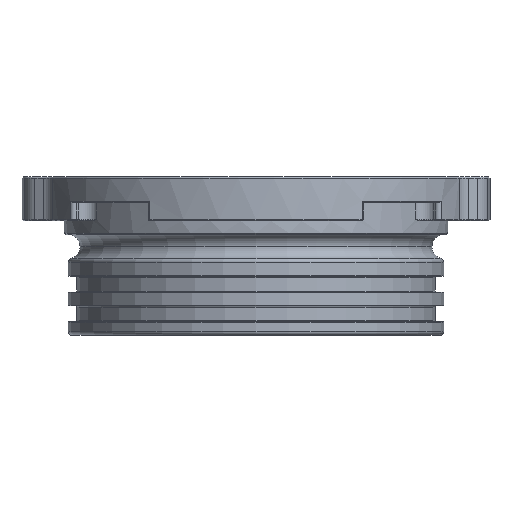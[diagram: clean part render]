
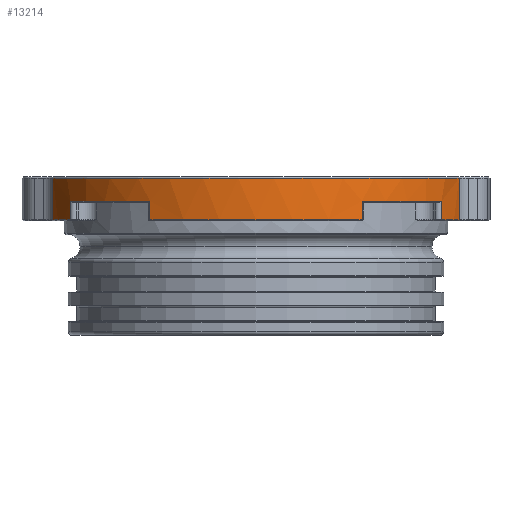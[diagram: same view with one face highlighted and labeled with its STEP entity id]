
A CAD part, front view. The second image highlights one B-rep face of the part: STEP entity #13214.
In plain terms, the highlighted cylindrical face has radius 29 mm (diameter 58 mm), a partial arc.
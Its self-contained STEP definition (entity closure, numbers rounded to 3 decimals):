
#831 = DIRECTION ( 'NONE',  ( -1., 0., 0. ) ) ;
#2149 = VECTOR ( 'NONE', #17280, 1000. ) ;
#3308 = AXIS2_PLACEMENT_3D ( 'NONE', #32660, #32918, #48868 ) ;
#3607 = CARTESIAN_POINT ( 'NONE',  ( 0., 0., 15.7 ) ) ;
#3786 = CARTESIAN_POINT ( 'NONE',  ( -25.18, -14.387, 18.2 ) ) ;
#4490 = DIRECTION ( 'NONE',  ( 0., 0., -1. ) ) ;
#4780 = AXIS2_PLACEMENT_3D ( 'NONE', #7014, #42909, #10475 ) ;
#6105 = VERTEX_POINT ( 'NONE', #28368 ) ;
#7014 = CARTESIAN_POINT ( 'NONE',  ( 0., 0., 18.2 ) ) ;
#8305 = EDGE_CURVE ( 'NONE', #14610, #36870, #45635, .T. ) ;
#8414 = DIRECTION ( 'NONE',  ( 0., 0., 1. ) ) ;
#8552 = EDGE_CURVE ( 'NONE', #42569, #8894, #16777, .T. ) ;
#8672 = DIRECTION ( 'NONE',  ( 1., 0., 0. ) ) ;
#8894 = VERTEX_POINT ( 'NONE', #35919 ) ;
#9046 = DIRECTION ( 'NONE',  ( 0., 0., -1. ) ) ;
#9600 = EDGE_CURVE ( 'NONE', #8894, #12699, #37952, .T. ) ;
#10298 = CARTESIAN_POINT ( 'NONE',  ( -14.387, -25.18, 0. ) ) ;
#10475 = DIRECTION ( 'NONE',  ( -1., 0., 0. ) ) ;
#11321 = DIRECTION ( 'NONE',  ( 1., 0., 0. ) ) ;
#11584 = DIRECTION ( 'NONE',  ( 0., 0., 1. ) ) ;
#11904 = VERTEX_POINT ( 'NONE', #12012 ) ;
#12012 = CARTESIAN_POINT ( 'NONE',  ( -25.18, -14.387, 15.7 ) ) ;
#12178 = DIRECTION ( 'NONE',  ( 0., 0., 1. ) ) ;
#12699 = VERTEX_POINT ( 'NONE', #17263 ) ;
#13214 = ADVANCED_FACE ( 'NONE', ( #48824 ), #15631, .T. ) ;
#13308 = VERTEX_POINT ( 'NONE', #41363 ) ;
#13427 = CARTESIAN_POINT ( 'NONE',  ( 0., 0., 15.7 ) ) ;
#13615 = AXIS2_PLACEMENT_3D ( 'NONE', #3607, #11584, #11321 ) ;
#13751 = ORIENTED_EDGE ( 'NONE', *, *, #45216, .T. ) ;
#14111 = CARTESIAN_POINT ( 'NONE',  ( 0., 0., 21.3 ) ) ;
#14567 = CARTESIAN_POINT ( 'NONE',  ( -27.555, -9.039, 21.3 ) ) ;
#14610 = VERTEX_POINT ( 'NONE', #20527 ) ;
#14809 = CARTESIAN_POINT ( 'NONE',  ( -25.18, -14.387, 0. ) ) ;
#15072 = EDGE_CURVE ( 'NONE', #36870, #22533, #41379, .T. ) ;
#15107 = CARTESIAN_POINT ( 'NONE',  ( 27.555, -9.039, 15.7 ) ) ;
#15361 = EDGE_CURVE ( 'NONE', #6105, #11904, #26230, .T. ) ;
#15631 = CYLINDRICAL_SURFACE ( 'NONE', #46560, 29. ) ;
#15986 = VECTOR ( 'NONE', #42723, 1000. ) ;
#16777 = CIRCLE ( 'NONE', #33739, 29. ) ;
#17263 = CARTESIAN_POINT ( 'NONE',  ( -14.387, -25.18, 15.7 ) ) ;
#17280 = DIRECTION ( 'NONE',  ( 0., 0., 1. ) ) ;
#17426 = DIRECTION ( 'NONE',  ( 1., 0., 0. ) ) ;
#18121 = EDGE_CURVE ( 'NONE', #12699, #19328, #44156, .T. ) ;
#18537 = LINE ( 'NONE', #14809, #25973 ) ;
#19211 = CIRCLE ( 'NONE', #4780, 29. ) ;
#19328 = VERTEX_POINT ( 'NONE', #43785 ) ;
#19951 = DIRECTION ( 'NONE',  ( 0., 0., -1. ) ) ;
#20527 = CARTESIAN_POINT ( 'NONE',  ( 25.18, -14.387, 15.7 ) ) ;
#20926 = CARTESIAN_POINT ( 'NONE',  ( 27.555, -9.039, 0. ) ) ;
#21187 = DIRECTION ( 'NONE',  ( 0., 0., 1. ) ) ;
#21217 = CARTESIAN_POINT ( 'NONE',  ( 27.555, -9.039, 21.3 ) ) ;
#21869 = VECTOR ( 'NONE', #19951, 1000. ) ;
#22119 = ORIENTED_EDGE ( 'NONE', *, *, #48939, .T. ) ;
#22533 = VERTEX_POINT ( 'NONE', #21217 ) ;
#22850 = VECTOR ( 'NONE', #21187, 1000. ) ;
#23573 = AXIS2_PLACEMENT_3D ( 'NONE', #13427, #12178, #17426 ) ;
#23683 = LINE ( 'NONE', #44133, #21869 ) ;
#24662 = ORIENTED_EDGE ( 'NONE', *, *, #32153, .T. ) ;
#24701 = LINE ( 'NONE', #36144, #32611 ) ;
#25065 = AXIS2_PLACEMENT_3D ( 'NONE', #14111, #9046, #831 ) ;
#25859 = DIRECTION ( 'NONE',  ( 0., 0., 1. ) ) ;
#25973 = VECTOR ( 'NONE', #31009, 1000. ) ;
#26230 = CIRCLE ( 'NONE', #3308, 29. ) ;
#28368 = CARTESIAN_POINT ( 'NONE',  ( -27.555, -9.039, 15.7 ) ) ;
#29584 = CARTESIAN_POINT ( 'NONE',  ( 0., 0., 18.2 ) ) ;
#30188 = CIRCLE ( 'NONE', #25065, 29. ) ;
#30283 = CARTESIAN_POINT ( 'NONE',  ( 14.387, -25.18, 0. ) ) ;
#31009 = DIRECTION ( 'NONE',  ( 0., 0., 1. ) ) ;
#31207 = ORIENTED_EDGE ( 'NONE', *, *, #18121, .T. ) ;
#32117 = ORIENTED_EDGE ( 'NONE', *, *, #43980, .T. ) ;
#32153 = EDGE_CURVE ( 'NONE', #50373, #6105, #24701, .T. ) ;
#32389 = ORIENTED_EDGE ( 'NONE', *, *, #15072, .T. ) ;
#32611 = VECTOR ( 'NONE', #4490, 1000. ) ;
#32660 = CARTESIAN_POINT ( 'NONE',  ( 0., 0., 15.7 ) ) ;
#32879 = CARTESIAN_POINT ( 'NONE',  ( 0., 0., 0. ) ) ;
#32918 = DIRECTION ( 'NONE',  ( 0., 0., 1. ) ) ;
#33739 = AXIS2_PLACEMENT_3D ( 'NONE', #29584, #25859, #49780 ) ;
#34551 = ORIENTED_EDGE ( 'NONE', *, *, #8552, .T. ) ;
#35073 = ORIENTED_EDGE ( 'NONE', *, *, #44691, .T. ) ;
#35822 = EDGE_CURVE ( 'NONE', #22533, #50373, #30188, .T. ) ;
#35919 = CARTESIAN_POINT ( 'NONE',  ( -14.387, -25.18, 18.2 ) ) ;
#36144 = CARTESIAN_POINT ( 'NONE',  ( -27.555, -9.039, 0. ) ) ;
#36870 = VERTEX_POINT ( 'NONE', #15107 ) ;
#37803 = ORIENTED_EDGE ( 'NONE', *, *, #15361, .T. ) ;
#37952 = LINE ( 'NONE', #10298, #15986 ) ;
#38963 = ORIENTED_EDGE ( 'NONE', *, *, #35822, .T. ) ;
#41363 = CARTESIAN_POINT ( 'NONE',  ( 14.387, -25.18, 18.2 ) ) ;
#41379 = LINE ( 'NONE', #20926, #22850 ) ;
#42490 = CARTESIAN_POINT ( 'NONE',  ( 25.18, -14.387, 18.2 ) ) ;
#42569 = VERTEX_POINT ( 'NONE', #3786 ) ;
#42723 = DIRECTION ( 'NONE',  ( 0., 0., -1. ) ) ;
#42909 = DIRECTION ( 'NONE',  ( 0., 0., 1. ) ) ;
#43571 = ORIENTED_EDGE ( 'NONE', *, *, #8305, .T. ) ;
#43785 = CARTESIAN_POINT ( 'NONE',  ( 14.387, -25.18, 15.7 ) ) ;
#43980 = EDGE_CURVE ( 'NONE', #19328, #13308, #46236, .T. ) ;
#44133 = CARTESIAN_POINT ( 'NONE',  ( 25.18, -14.387, 0. ) ) ;
#44156 = CIRCLE ( 'NONE', #13615, 29. ) ;
#44691 = EDGE_CURVE ( 'NONE', #11904, #42569, #18537, .T. ) ;
#45216 = EDGE_CURVE ( 'NONE', #13308, #47227, #19211, .T. ) ;
#45635 = CIRCLE ( 'NONE', #23573, 29. ) ;
#46236 = LINE ( 'NONE', #30283, #2149 ) ;
#46560 = AXIS2_PLACEMENT_3D ( 'NONE', #32879, #8414, #8672 ) ;
#47227 = VERTEX_POINT ( 'NONE', #42490 ) ;
#48824 = FACE_OUTER_BOUND ( 'NONE', #50036, .T. ) ;
#48868 = DIRECTION ( 'NONE',  ( 1., 0., 0. ) ) ;
#48939 = EDGE_CURVE ( 'NONE', #47227, #14610, #23683, .T. ) ;
#49780 = DIRECTION ( 'NONE',  ( -1., 0., 0. ) ) ;
#50036 = EDGE_LOOP ( 'NONE', ( #24662, #37803, #35073, #34551, #50424, #31207, #32117, #13751, #22119, #43571, #32389, #38963 ) ) ;
#50373 = VERTEX_POINT ( 'NONE', #14567 ) ;
#50424 = ORIENTED_EDGE ( 'NONE', *, *, #9600, .T. ) ;
